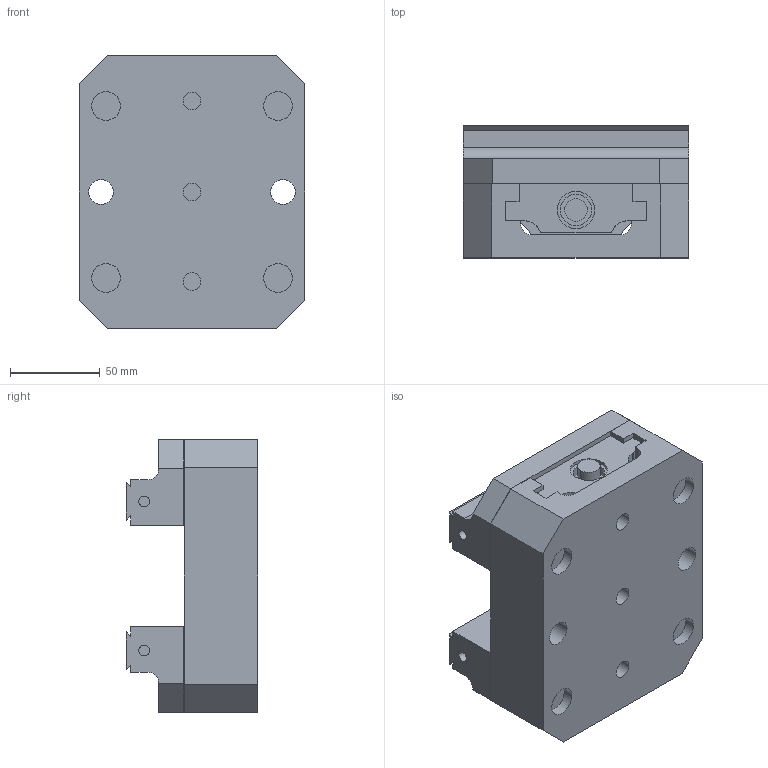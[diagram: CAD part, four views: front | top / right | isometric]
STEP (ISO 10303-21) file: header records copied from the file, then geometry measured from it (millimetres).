
FILE_DESCRIPTION (( 'STEP AP214' ), '1' );
FILE_NAME ('D_V562X.STEP', '2024-11-22T17:53:08', ( '' ), ( '' ), 'SwSTEP 2.0', 'SolidWorks 2024', '' );
FILE_SCHEMA (( 'AUTOMOTIVE_DESIGN' ));
Length unit declared in the file: inch
Products named in the file (4): SALES_V562X-1; SALES_V562X-2; SALES_V562X-5; D_V562X
Assembly tree (5 placements, depth 2):
  D_V562X
    SALES_V562X-1
    SALES_V562X-2  x2
    SALES_V562X-5  x2
Bounding box: 125.73 x 73.64 x 152.4 mm (x, y, z)
Volume: 873223.3 mm3; surface area: 172243.3 mm2
Topology: 5 solids, 5 shells, 305 faces, 718 edges, 476 vertices
Faces by surface type: plane 167, cylinder 138
Entity records: 5776 total; most frequent: DIRECTION 1021, CARTESIAN_POINT 986, ORIENTED_EDGE 914, EDGE_CURVE 457, AXIS2_PLACEMENT_3D 369, VERTEX_POINT 302, LINE 283, VECTOR 283
